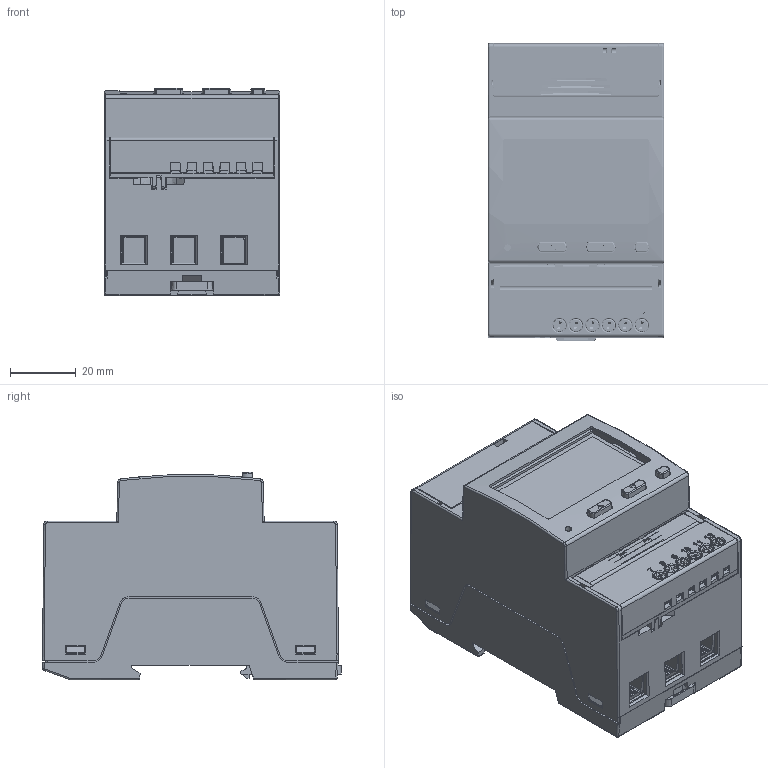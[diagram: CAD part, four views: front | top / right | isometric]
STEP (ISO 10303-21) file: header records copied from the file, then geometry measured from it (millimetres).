
FILE_DESCRIPTION(/* description */ (''),/* implementation_level */ '2;1');
FILE_NAME(/* name */ 'Z:\Meccanica\EM3000\EM540_Shrinkwrap_21.04.2021.stp',/* time_stamp */ '2021-04-21T09:13:20+02:00',/* author */ ('dfregona'),/* organization */ (''),/* preprocessor_version */ 'ST-DEVELOPER v18.1',/* originating_system */ 'Autodesk Inventor 2021',/* authorisation */ '');
FILE_SCHEMA (('AUTOMOTIVE_DESIGN { 1 0 10303 214 3 1 1 }'));
Products named in the file (1): EM3000AV2 - 01.04.2019_Shrinkwrap_1
Bounding box: 53.4 x 90.91 x 63.06 mm (x, y, z)
Volume: 73255.5 mm3; surface area: 103961.4 mm2
Topology: 3 solids, 12 shells, 5660 faces, 15883 edges, 10222 vertices
Faces by surface type: plane 4053, cylinder 1091, bspline 235, cone 184, torus 70, sphere 27
Full cylindrical faces by diameter (mm): 0.3 x3, 1.9 x30, 2 x1, 2.121 x12, 2.2 x3, 2.4 x18, 2.459 x1, 2.6 x1, 2.97 x1, 3.05 x1, 3.1 x6, 3.242 x12, 3.5 x6, 3.85 x7, 4 x48, 4.1 x1, 6.9 x6
Entity records: 206225 total; most frequent: CARTESIAN_POINT 54812, ORIENTED_EDGE 31870, DIRECTION 28252, EDGE_CURVE 15943, LINE 12188, VECTOR 12188, VERTEX_POINT 10222, AXIS2_PLACEMENT_3D 8032
